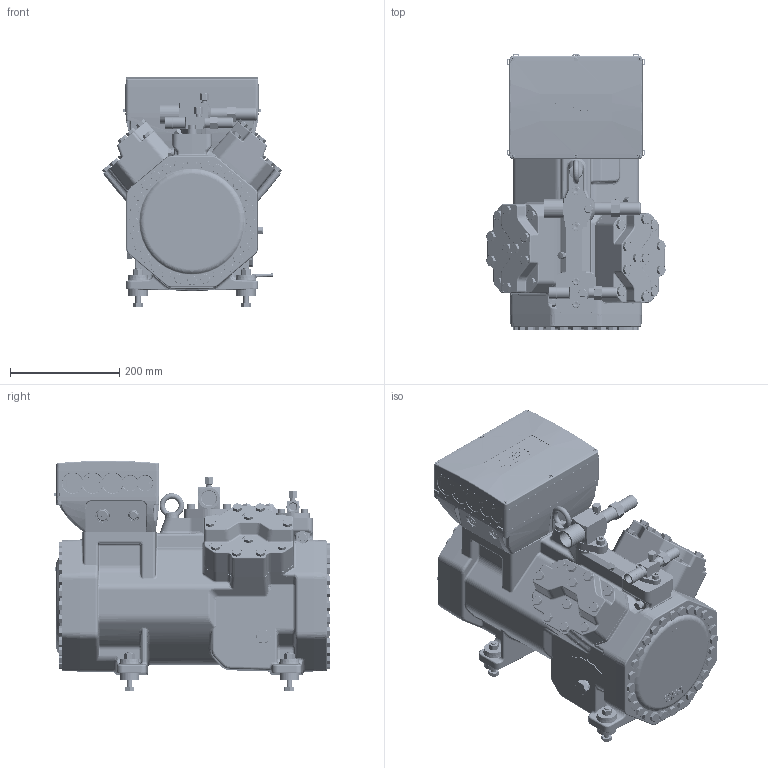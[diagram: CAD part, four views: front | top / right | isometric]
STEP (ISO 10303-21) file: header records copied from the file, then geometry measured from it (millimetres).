
FILE_DESCRIPTION(/* description */ (''),/* implementation_level */ '2;1');
FILE_NAME(/* name */ '4FME-4EME-4DME-STANDARD_Arrangement 1.stp',/* time_stamp */ '2025-06-03T11:58:00+02:00',/* author */ (''),/* organization */ (''),/* preprocessor_version */ 'ST-DEVELOPER v20',/* originating_system */ 'SIEMENS PLM Software NX2406.8100',/* authorisation */ '');
FILE_SCHEMA (('AUTOMOTIVE_DESIGN { 1 0 10303 214 3 1 1 1 }'));
Products named in the file (11): SHUT-OFF-VALVE-DI16-DA22-DN12; SHUT-OFF-VALVE-PS100-DN25; ELECTRICAL-TERMINAL-BOX-C3; CRANKCASE-HEATER-200-260V-120W; TERMINAL-BOX-CE3-CM-RC-02; HOUSING-COVER-CKHE2-CKHE3; DAMPERELEMENT-COMPL-KIT-CKH3-03; CYLINDER-HEAD-CKH2-CKH3-01; BEARING-COVER-CKHE3; CME3-BASIC-BODY; 4FME-4EME-4DME-STANDARD
Assembly tree (14 placements, depth 2):
  4FME-4EME-4DME-STANDARD
    CME3-BASIC-BODY
    BEARING-COVER-CKHE3
    CYLINDER-HEAD-CKH2-CKH3-01  x2
    DAMPERELEMENT-COMPL-KIT-CKH3-03  x4
    HOUSING-COVER-CKHE2-CKHE3
    TERMINAL-BOX-CE3-CM-RC-02
    CRANKCASE-HEATER-200-260V-120W
    ELECTRICAL-TERMINAL-BOX-C3
    SHUT-OFF-VALVE-PS100-DN25
    SHUT-OFF-VALVE-DI16-DA22-DN12
Bounding box: 329.38 x 505.95 x 422.39 mm (x, y, z)
Volume: 33948827.3 mm3; surface area: 1380494.3 mm2
Topology: 18 solids, 20 shells, 8631 faces, 20982 edges, 12528 vertices
Faces by surface type: bspline 2990, plane 2410, cylinder 1619, cone 785, torus 435, sphere 253, extrusion 139
Full cylindrical faces by diameter (mm): 2 x1, 3 x4, 4 x6, 5 x5, 5.795 x4, 6 x3, 7 x1, 8 x3, 8.5 x7, 9 x4, 10 x8, 10.29 x1, 10.72 x2, 10.8 x1, 11 x14, 12 x1, 13 x3, 13.716 x2, 14 x1, 14.63 x58, 15.876 x10, 16 x6, 16.1 x1, 16.5 x1, 17 x2, 18 x1, 19 x1, 19.9 x1, 20 x32, 21 x6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
Entity records: 237307 total; most frequent: CARTESIAN_POINT 100488, ORIENTED_EDGE 31192, DIRECTION 22949, EDGE_CURVE 15596, VERTEX_POINT 9829, AXIS2_PLACEMENT_3D 9031, EDGE_LOOP 7628, ADVANCED_FACE 6703
